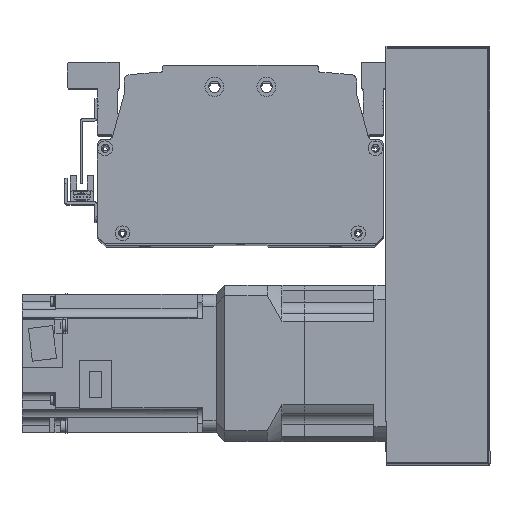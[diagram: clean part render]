
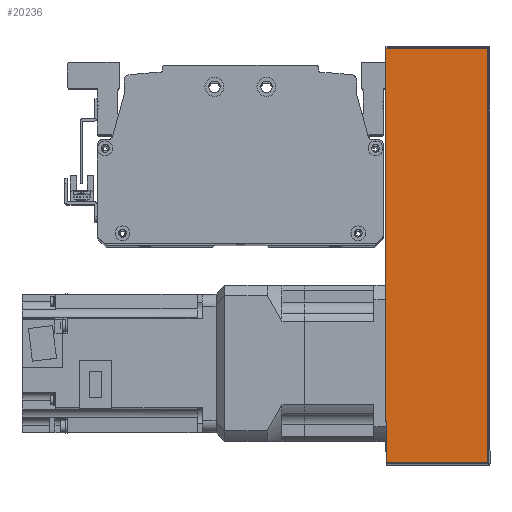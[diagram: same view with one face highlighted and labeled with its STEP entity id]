
A CAD part, top view. The second image highlights one B-rep face of the part: STEP entity #20236.
In plain terms, the highlighted planar face has unit normal (0, 0, 1) as drawn and (0, 1, 0) by its records, which use the part's own axes.
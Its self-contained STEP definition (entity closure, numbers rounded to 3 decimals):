
#536=PLANE('',#22016);
#1667=LINE('',#32093,#3327);
#1686=LINE('',#32177,#3346);
#1688=LINE('',#32187,#3348);
#1689=LINE('',#32189,#3349);
#3327=VECTOR('',#26066,10.);
#3346=VECTOR('',#26179,10.);
#3348=VECTOR('',#26193,10.);
#3349=VECTOR('',#26196,10.);
#5261=FACE_OUTER_BOUND('',#6617,.T.);
#6617=EDGE_LOOP('',(#15878,#15879,#15880,#15881));
#9409=VERTEX_POINT('',#32090);
#9410=VERTEX_POINT('',#32092);
#9427=VERTEX_POINT('',#32171);
#9430=VERTEX_POINT('',#32183);
#11729=EDGE_CURVE('',#9410,#9409,#1667,.T.);
#11772=EDGE_CURVE('',#9427,#9410,#1686,.T.);
#11777=EDGE_CURVE('',#9409,#9430,#1688,.T.);
#11778=EDGE_CURVE('',#9430,#9427,#1689,.T.);
#15878=ORIENTED_EDGE('',*,*,#11772,.T.);
#15879=ORIENTED_EDGE('',*,*,#11729,.T.);
#15880=ORIENTED_EDGE('',*,*,#11777,.T.);
#15881=ORIENTED_EDGE('',*,*,#11778,.T.);
#20236=ADVANCED_FACE('',(#5261),#536,.F.);
#22016=AXIS2_PLACEMENT_3D('',#32196,#26205,#26206);
#26066=DIRECTION('',(-1.,0.,0.));
#26179=DIRECTION('',(0.,0.,-1.));
#26193=DIRECTION('',(0.,0.,1.));
#26196=DIRECTION('',(1.,0.,0.));
#26205=DIRECTION('center_axis',(0.,-1.,0.));
#26206=DIRECTION('ref_axis',(-1.,0.,0.));
#32090=CARTESIAN_POINT('',(-120.,51.,-30.));
#32092=CARTESIAN_POINT('',(120.,51.,-30.));
#32093=CARTESIAN_POINT('',(-121.,51.,-30.));
#32171=CARTESIAN_POINT('',(120.,51.,29.));
#32177=CARTESIAN_POINT('',(120.,51.,0.));
#32183=CARTESIAN_POINT('',(-120.,51.,29.));
#32187=CARTESIAN_POINT('',(-120.,51.,0.));
#32189=CARTESIAN_POINT('',(60.5,51.,29.));
#32196=CARTESIAN_POINT('Origin',(121.,51.,0.));
